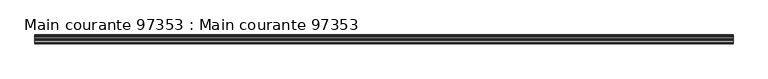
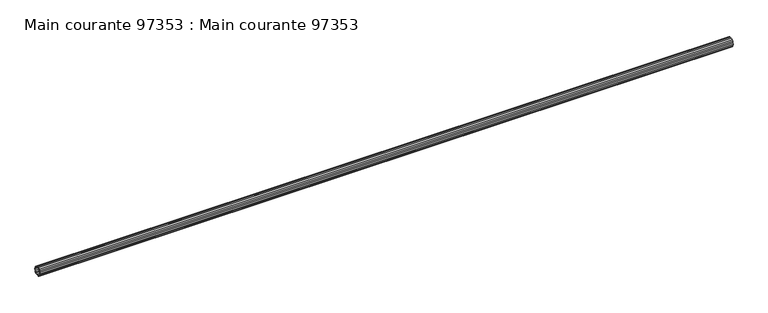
"""IFC4 building model written with IfcOpenShell, lengths in millimetres: beam geometry, Main courante 97353 : Main courante 97353."""

from ifc_helpers import new_model, si_unit, frame, origin, place, context, project, spatial, polyline, outline, extrude, source, transform, mapped, element, save


def main_courante_97353_main_courante_97353_180c7f68(model_context):
    return source(origin(), model_context, "Body", "SweptSolid", [
        extrude(outline(polyline([(-14149.8127604, 9262.9680149), (-14142.35, 9264.15), (-14134.8872396, 9262.9680149), (-14128.1549862, 9259.5377604), (-14122.8122396, 9254.1950138), (-14119.3819851, 9247.4627604), (-14118.2, 9240.0), (-14119.3819851, 9232.5372396), (-14122.8122396, 9225.8049862), (-14128.1549862, 9220.4622396), (-14134.8872396, 9217.0319851), (-14142.35, 9215.85), (-14149.8127604, 9217.0319851), (-14156.5450138, 9220.4622396), (-14161.8877604, 9225.8049862), (-14165.3180149, 9232.5372396), (-14166.5, 9240.0), (-14165.3180149, 9247.4627604), (-14161.8877604, 9254.1950138), (-14156.5450138, 9259.5377604), (-14149.8127604, 9262.9680149)]), holes=[polyline([(-14120.7, 9240.0), (-14121.7596264, 9246.6902179), (-14124.8347821, 9252.7255507), (-14129.6244493, 9257.5152179), (-14135.6597821, 9260.5903736), (-14142.35, 9261.65), (-14149.0402179, 9260.5903736), (-14155.0755507, 9257.5152179), (-14159.8652179, 9252.7255507), (-14162.9403736, 9246.6902179), (-14164.0, 9240.0), (-14162.9403736, 9233.3097821), (-14159.8652179, 9227.2744493), (-14155.0755507, 9222.4847821), (-14149.0402179, 9219.4096264), (-14142.35, 9218.35), (-14135.6597821, 9219.4096264), (-14129.6244493, 9222.4847821), (-14124.8347821, 9227.2744493), (-14121.7596264, 9233.3097821), (-14120.7, 9240.0)])]), frame((-40.0000001, 0.0, 0.0), z_axis=(1.0, 0.0, 0.0), x_axis=(0.0, 1.0, 0.0)), (0.0, 0.0, 1.0), 3722.5),
    ])


if __name__ == "__main__":
    model = new_model("IFC4")
    model_context = context("Model", 3, world=origin())
    ifc_project = project(units=[si_unit("LENGTHUNIT", "METRE", prefix="MILLI")], contexts=[model_context])
    site = spatial("IfcSite", under=ifc_project)
    building = spatial("IfcBuilding", under=site)
    placement = place(None, origin())
    main_courante_97353_main_courante_97353_shape = main_courante_97353_main_courante_97353_180c7f68(model_context)
    element("IfcBeam", 1, ObjectType="Main courante 97353 : Main courante 97353", at=placement, inside=building, context=model_context, shape_type="MappedRepresentation", body=[
        mapped(main_courante_97353_main_courante_97353_shape, transform((0.0, 0.0, 0.0), x_axis=(1.0, 0.0, 0.0), y_axis=(0.0, 1.0, 0.0), z_axis=(0.0, 0.0, 1.0))),
    ])
    save(model, "model.ifc")
